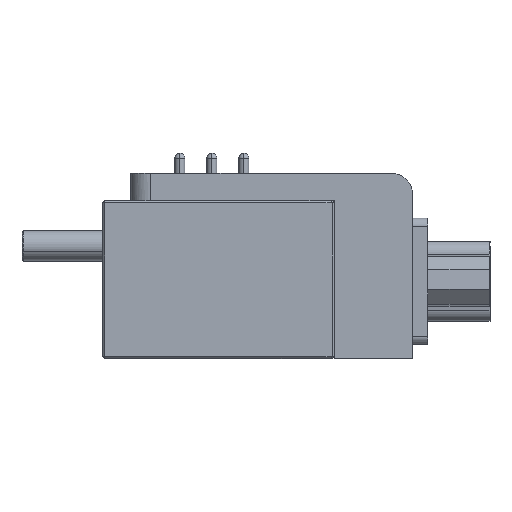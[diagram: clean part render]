
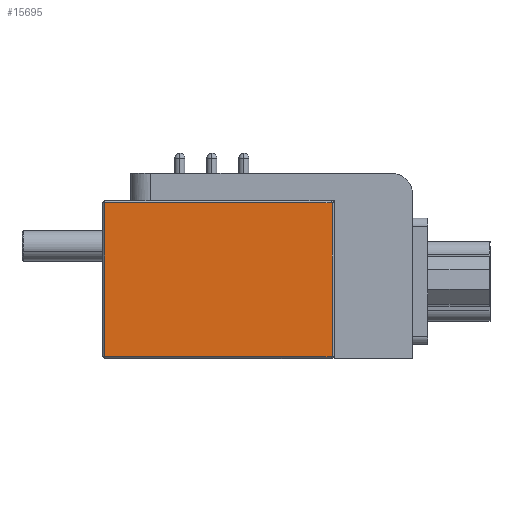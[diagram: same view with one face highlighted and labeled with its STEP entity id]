
A CAD part, left-side view. The second image highlights one B-rep face of the part: STEP entity #15695.
In plain terms, the highlighted planar face has unit normal (-1, 0, 0).
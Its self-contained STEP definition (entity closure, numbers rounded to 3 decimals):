
#1483 = CARTESIAN_POINT ( 'NONE',  ( -15.5, 6., -18.2 ) ) ;
#1907 = VECTOR ( 'NONE', #15012, 1000. ) ;
#2839 = FACE_OUTER_BOUND ( 'NONE', #16126, .T. ) ;
#3618 = VERTEX_POINT ( 'NONE', #6860 ) ;
#3795 = LINE ( 'NONE', #15409, #6465 ) ;
#4017 = PLANE ( 'NONE',  #9947 ) ;
#5329 = ORIENTED_EDGE ( 'NONE', *, *, #14062, .T. ) ;
#5408 = VECTOR ( 'NONE', #14035, 1000. ) ;
#5545 = VERTEX_POINT ( 'NONE', #16246 ) ;
#6245 = CARTESIAN_POINT ( 'NONE',  ( -15.5, 28.6, -18.4 ) ) ;
#6465 = VECTOR ( 'NONE', #11276, 1000. ) ;
#6788 = DIRECTION ( 'NONE',  ( -1., 0., 0. ) ) ;
#6835 = EDGE_CURVE ( 'NONE', #12662, #9529, #3795, .T. ) ;
#6860 = CARTESIAN_POINT ( 'NONE',  ( -15.5, 28.6, -18.2 ) ) ;
#7174 = EDGE_CURVE ( 'NONE', #3618, #12662, #8895, .T. ) ;
#7509 = LINE ( 'NONE', #6245, #1907 ) ;
#7715 = CARTESIAN_POINT ( 'NONE',  ( -15.5, 6., -18.2 ) ) ;
#8895 = LINE ( 'NONE', #1483, #5408 ) ;
#9321 = CARTESIAN_POINT ( 'NONE',  ( -15.5, 28.8, -18.4 ) ) ;
#9529 = VERTEX_POINT ( 'NONE', #14067 ) ;
#9841 = VECTOR ( 'NONE', #15637, 1000. ) ;
#9947 = AXIS2_PLACEMENT_3D ( 'NONE', #9321, #6788, #15472 ) ;
#11276 = DIRECTION ( 'NONE',  ( 0., 0., 1. ) ) ;
#11489 = ORIENTED_EDGE ( 'NONE', *, *, #16347, .T. ) ;
#12650 = ORIENTED_EDGE ( 'NONE', *, *, #6835, .T. ) ;
#12662 = VERTEX_POINT ( 'NONE', #7715 ) ;
#13722 = ORIENTED_EDGE ( 'NONE', *, *, #7174, .T. ) ;
#14035 = DIRECTION ( 'NONE',  ( 0., -1., 0. ) ) ;
#14062 = EDGE_CURVE ( 'NONE', #9529, #5545, #15485, .T. ) ;
#14067 = CARTESIAN_POINT ( 'NONE',  ( -15.5, 6., -2.9 ) ) ;
#15012 = DIRECTION ( 'NONE',  ( 0., 0., -1. ) ) ;
#15409 = CARTESIAN_POINT ( 'NONE',  ( -15.5, 6., -18.4 ) ) ;
#15472 = DIRECTION ( 'NONE',  ( 0., -1., 0. ) ) ;
#15485 = LINE ( 'NONE', #15728, #9841 ) ;
#15637 = DIRECTION ( 'NONE',  ( 0., 1., 0. ) ) ;
#15695 = ADVANCED_FACE ( 'NONE', ( #2839 ), #4017, .T. ) ;
#15728 = CARTESIAN_POINT ( 'NONE',  ( -15.5, 28.8, -2.9 ) ) ;
#16126 = EDGE_LOOP ( 'NONE', ( #12650, #5329, #11489, #13722 ) ) ;
#16246 = CARTESIAN_POINT ( 'NONE',  ( -15.5, 28.6, -2.9 ) ) ;
#16347 = EDGE_CURVE ( 'NONE', #5545, #3618, #7509, .T. ) ;
